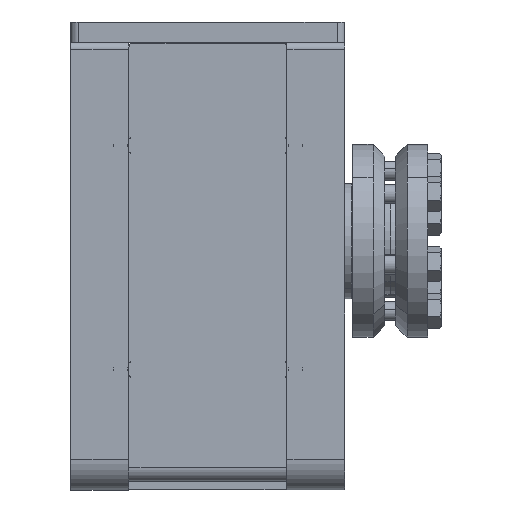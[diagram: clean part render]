
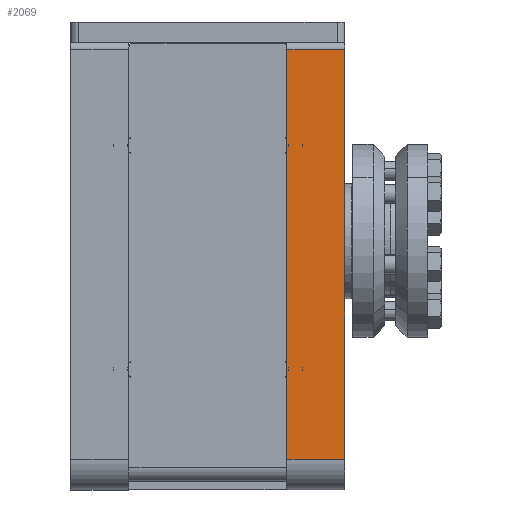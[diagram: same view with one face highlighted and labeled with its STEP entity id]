
A CAD part, left-side view. The second image highlights one B-rep face of the part: STEP entity #2069.
In plain terms, the highlighted planar face has unit normal (-1, 0, 0) as drawn and (1, 0, 0) by its records, which use the part's own axes.
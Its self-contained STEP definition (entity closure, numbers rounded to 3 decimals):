
#610 = CARTESIAN_POINT ( 'NONE',  ( 130., 7.5, 54. ) ) ;
#2069 = ADVANCED_FACE ( 'NONE', ( #38894 ), #48252, .F. ) ;
#2542 = ORIENTED_EDGE ( 'NONE', *, *, #41715, .F. ) ;
#2953 = VECTOR ( 'NONE', #52075, 1000. ) ;
#3789 = DIRECTION ( 'NONE',  ( 0., -1., 0. ) ) ;
#5578 = VERTEX_POINT ( 'NONE', #610 ) ;
#6287 = CARTESIAN_POINT ( 'NONE',  ( 130., -7.5, -60. ) ) ;
#6627 = EDGE_CURVE ( 'NONE', #5578, #43160, #45737, .T. ) ;
#10545 = CARTESIAN_POINT ( 'NONE',  ( 130., 7.5, -60. ) ) ;
#13741 = LINE ( 'NONE', #10545, #45844 ) ;
#14195 = CARTESIAN_POINT ( 'NONE',  ( 130., 7.5, -52. ) ) ;
#14918 = DIRECTION ( 'NONE',  ( 0., 0., 1. ) ) ;
#18437 = ORIENTED_EDGE ( 'NONE', *, *, #6627, .T. ) ;
#19341 = LINE ( 'NONE', #37960, #51485 ) ;
#22752 = CARTESIAN_POINT ( 'NONE',  ( 130., -7.5, -52. ) ) ;
#23345 = VERTEX_POINT ( 'NONE', #52540 ) ;
#23783 = ORIENTED_EDGE ( 'NONE', *, *, #27633, .F. ) ;
#25334 = LINE ( 'NONE', #22752, #2953 ) ;
#25752 = DIRECTION ( 'NONE',  ( 0., 0., 1. ) ) ;
#27633 = EDGE_CURVE ( 'NONE', #48018, #23345, #25334, .T. ) ;
#27668 = ORIENTED_EDGE ( 'NONE', *, *, #50682, .T. ) ;
#31942 = DIRECTION ( 'NONE',  ( 0., 0., 1. ) ) ;
#32730 = EDGE_LOOP ( 'NONE', ( #27668, #18437, #2542, #23783 ) ) ;
#33419 = AXIS2_PLACEMENT_3D ( 'NONE', #6287, #52518, #14918 ) ;
#34593 = VECTOR ( 'NONE', #3789, 1000. ) ;
#37960 = CARTESIAN_POINT ( 'NONE',  ( 130., -7.5, -60. ) ) ;
#38894 = FACE_OUTER_BOUND ( 'NONE', #32730, .T. ) ;
#41715 = EDGE_CURVE ( 'NONE', #23345, #43160, #19341, .T. ) ;
#43160 = VERTEX_POINT ( 'NONE', #52465 ) ;
#45737 = LINE ( 'NONE', #53696, #34593 ) ;
#45844 = VECTOR ( 'NONE', #31942, 1000. ) ;
#48018 = VERTEX_POINT ( 'NONE', #14195 ) ;
#48252 = PLANE ( 'NONE',  #33419 ) ;
#50682 = EDGE_CURVE ( 'NONE', #48018, #5578, #13741, .T. ) ;
#51485 = VECTOR ( 'NONE', #25752, 1000. ) ;
#52075 = DIRECTION ( 'NONE',  ( 0., -1., 0. ) ) ;
#52465 = CARTESIAN_POINT ( 'NONE',  ( 130., -7.5, 54. ) ) ;
#52518 = DIRECTION ( 'NONE',  ( -1., 0., 0. ) ) ;
#52540 = CARTESIAN_POINT ( 'NONE',  ( 130., -7.5, -52. ) ) ;
#53696 = CARTESIAN_POINT ( 'NONE',  ( 130., -7.5, 54. ) ) ;
